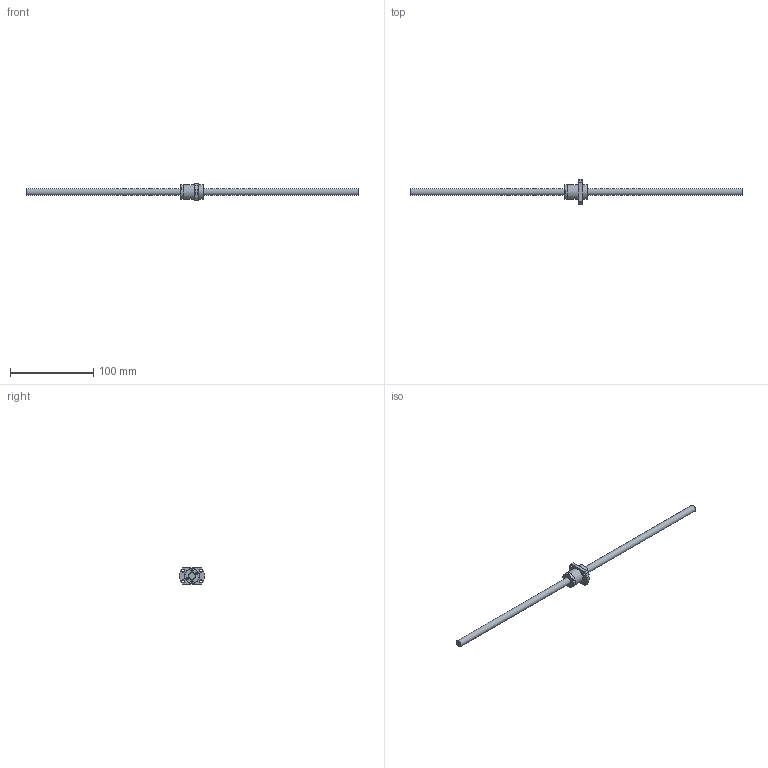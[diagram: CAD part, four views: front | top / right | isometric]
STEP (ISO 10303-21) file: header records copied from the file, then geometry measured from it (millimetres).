
FILE_DESCRIPTION( ( 'STEP AP214' ), ' ' );
FILE_NAME( 'p:/temp/worker_8/2656_3512/app_56_12015091121545306028866260eae72_000000_00_00_000000/format_0/SR0812-400R400C7(186.5).stp', '2015-09-11T19:54:53', ( '' ), ( '' ), ' ', 'PARTsolutions', ' ' );
FILE_SCHEMA( ( 'AUTOMOTIVE_DESIGN { 1 0 10303 214 1 1 1 1 }' ) );
Length unit declared in the file: millimetre
Products named in the file (3): SR0812-400R400C7(186.5); _SR0812-400R400C7(186.5)_shaft; _SR0812-400R400C7C7_nut
Assembly tree (2 placements, depth 2):
  SR0812-400R400C7(186.5)
    _SR0812-400R400C7(186.5)_shaft
    _SR0812-400R400C7C7_nut
Bounding box: 400 x 30.91 x 20 mm (x, y, z)
Volume: 26582.4 mm3; surface area: 13695.9 mm2
Topology: 2 solids, 2 shells, 84 faces, 199 edges, 131 vertices
Faces by surface type: plane 55, cylinder 21, cone 8
Full cylindrical faces by diameter (mm): 2.15 x1, 2.5 x2, 3.4 x4, 8 x2, 17.5 x3, 18 x2
Entity records: 3066 total; most frequent: CARTESIAN_POINT 419, DIRECTION 402, ORIENTED_EDGE 358, EDGE_CURVE 179, AXIS2_PLACEMENT_3D 144, VERTEX_POINT 129, EDGE_LOOP 124, LINE 114
